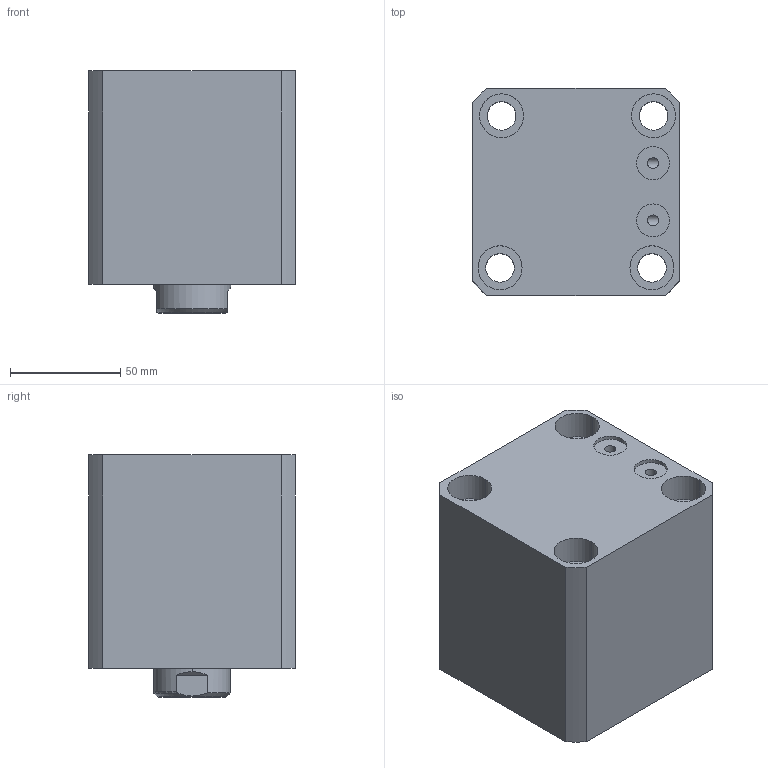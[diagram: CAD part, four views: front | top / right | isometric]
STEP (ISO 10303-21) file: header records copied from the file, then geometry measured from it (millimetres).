
FILE_DESCRIPTION (( 'STEP AP214' ), '1' );
FILE_NAME ('chtb-sdmb63x30n_asm.STEP', '2018-05-16T06:49:02', ( 'Windows' ), ( 'Microsoft' ), 'SwSTEP 2.0', 'SolidWorks 2015', '' );
FILE_SCHEMA (( 'AUTOMOTIVE_DESIGN' ));
Length unit declared in the file: millimetre
Products named in the file (4): CHTB-SDMB63X30NBT; CHTB63X30NHSG; CHTB-63QG; chtb-sdmb63x30n_asm
Assembly tree (3 placements, depth 2):
  chtb-sdmb63x30n_asm
    CHTB-63QG
    CHTB63X30NHSG
    CHTB-SDMB63X30NBT
Bounding box: 94 x 94 x 110 mm (x, y, z)
Volume: 714848.1 mm3; surface area: 128157.8 mm2
Topology: 3 solids, 3 shells, 164 faces, 468 edges, 318 vertices
Faces by surface type: cylinder 107, plane 30, bspline 12, cone 8, torus 7
Entity records: 17708 total; most frequent: CARTESIAN_POINT 13594, ORIENTED_EDGE 924, DIRECTION 707, EDGE_CURVE 462, VERTEX_POINT 318, AXIS2_PLACEMENT_3D 284, EDGE_LOOP 196, ADVANCED_FACE 164
